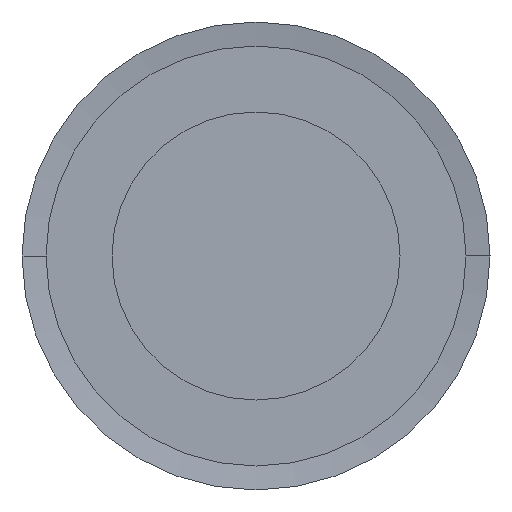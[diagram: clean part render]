
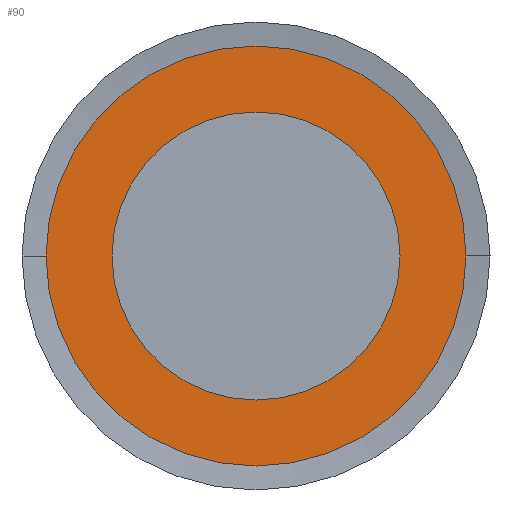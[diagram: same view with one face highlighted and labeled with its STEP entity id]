
A CAD part, left-side view. The second image highlights one B-rep face of the part: STEP entity #90.
In plain terms, the highlighted planar face has unit normal (-1, 0, 0).
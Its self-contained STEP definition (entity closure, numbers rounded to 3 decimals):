
#90 = ADVANCED_FACE( '', ( #214, #215 ), #216, .T. );
#214 = FACE_BOUND( '', #429, .T. );
#215 = FACE_OUTER_BOUND( '', #430, .T. );
#216 = PLANE( '', #431 );
#429 = EDGE_LOOP( '', ( #872, #873 ) );
#430 = EDGE_LOOP( '', ( #874, #875 ) );
#431 = AXIS2_PLACEMENT_3D( '', #876, #877, #878 );
#872 = ORIENTED_EDGE( '', *, *, #1499, .F. );
#873 = ORIENTED_EDGE( '', *, *, #1697, .F. );
#874 = ORIENTED_EDGE( '', *, *, #1698, .T. );
#875 = ORIENTED_EDGE( '', *, *, #1511, .T. );
#876 = CARTESIAN_POINT( '', ( 0.15, 7.375, 0. ) );
#877 = DIRECTION( '', ( -1., 0., 0. ) );
#878 = DIRECTION( '', ( 0., 1., 0. ) );
#1499 = EDGE_CURVE( '', #1784, #1787, #1788, .T. );
#1511 = EDGE_CURVE( '', #1811, #1808, #1812, .T. );
#1697 = EDGE_CURVE( '', #1787, #1784, #2171, .T. );
#1698 = EDGE_CURVE( '', #1808, #1811, #2172, .T. );
#1784 = VERTEX_POINT( '', #2258 );
#1787 = VERTEX_POINT( '', #2262 );
#1788 = CIRCLE( '', #2263, 6. );
#1808 = VERTEX_POINT( '', #2288 );
#1811 = VERTEX_POINT( '', #2292 );
#1812 = CIRCLE( '', #2293, 8.75 );
#2171 = CIRCLE( '', #2723, 6. );
#2172 = CIRCLE( '', #2724, 8.75 );
#2258 = CARTESIAN_POINT( '', ( 0.15, 6., 0. ) );
#2262 = CARTESIAN_POINT( '', ( 0.15, -6., 0. ) );
#2263 = AXIS2_PLACEMENT_3D( '', #2891, #2892, #2893 );
#2288 = CARTESIAN_POINT( '', ( 0.15, 8.75, 0. ) );
#2292 = CARTESIAN_POINT( '', ( 0.15, -8.75, 0. ) );
#2293 = AXIS2_PLACEMENT_3D( '', #2915, #2916, #2917 );
#2723 = AXIS2_PLACEMENT_3D( '', #3331, #3332, #3333 );
#2724 = AXIS2_PLACEMENT_3D( '', #3334, #3335, #3336 );
#2891 = CARTESIAN_POINT( '', ( 0.15, 0., 0. ) );
#2892 = DIRECTION( '', ( -1., 0., 0. ) );
#2893 = DIRECTION( '', ( 0., 1., 0. ) );
#2915 = CARTESIAN_POINT( '', ( 0.15, 0., 0. ) );
#2916 = DIRECTION( '', ( -1., 0., 0. ) );
#2917 = DIRECTION( '', ( 0., 1., 0. ) );
#3331 = CARTESIAN_POINT( '', ( 0.15, 0., 0. ) );
#3332 = DIRECTION( '', ( -1., 0., 0. ) );
#3333 = DIRECTION( '', ( 0., 1., 0. ) );
#3334 = CARTESIAN_POINT( '', ( 0.15, 0., 0. ) );
#3335 = DIRECTION( '', ( -1., 0., 0. ) );
#3336 = DIRECTION( '', ( 0., 1., 0. ) );
